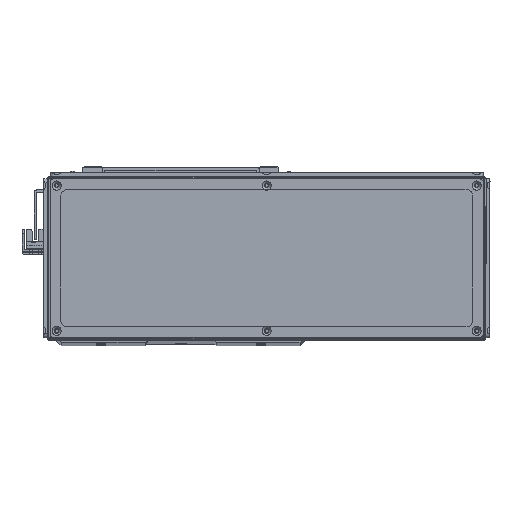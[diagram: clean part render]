
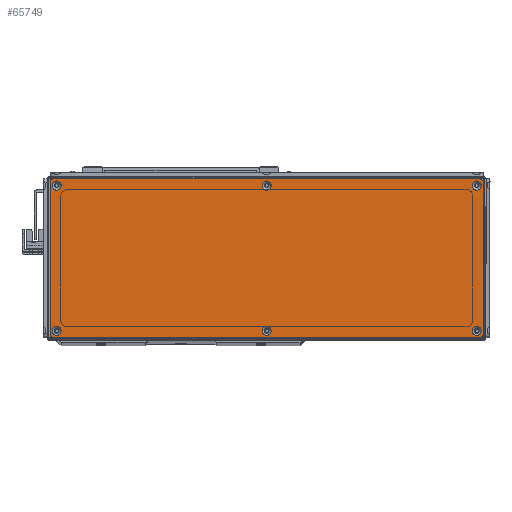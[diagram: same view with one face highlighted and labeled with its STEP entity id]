
A CAD part, top view. The second image highlights one B-rep face of the part: STEP entity #65749.
In plain terms, the highlighted planar face has unit normal (0, 0, 1) as drawn and (0, -1, 0) by its records, which use the part's own axes.
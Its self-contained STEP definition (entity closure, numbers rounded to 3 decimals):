
#1160=FACE_BOUND('',#9768,.T.);
#1161=FACE_BOUND('',#9769,.T.);
#1162=FACE_BOUND('',#9770,.T.);
#1163=FACE_BOUND('',#9771,.T.);
#1164=FACE_BOUND('',#9772,.T.);
#1165=FACE_BOUND('',#9773,.T.);
#1980=PLANE('',#70830);
#5914=FACE_OUTER_BOUND('',#9767,.T.);
#9767=EDGE_LOOP('',(#51489,#51490,#51491,#51492,#51493,#51494,#51495,#51496));
#9768=EDGE_LOOP('',(#51497));
#9769=EDGE_LOOP('',(#51498));
#9770=EDGE_LOOP('',(#51499));
#9771=EDGE_LOOP('',(#51500));
#9772=EDGE_LOOP('',(#51501));
#9773=EDGE_LOOP('',(#51502));
#14219=LINE('',#98699,#22055);
#14220=LINE('',#98703,#22056);
#14221=LINE('',#98707,#22057);
#14222=LINE('',#98710,#22058);
#22055=VECTOR('',#80173,10.);
#22056=VECTOR('',#80176,10.);
#22057=VECTOR('',#80179,10.);
#22058=VECTOR('',#80182,10.);
#29001=CIRCLE('',#70798,3.45);
#29004=CIRCLE('',#70803,3.45);
#29007=CIRCLE('',#70808,3.45);
#29010=CIRCLE('',#70813,3.45);
#29013=CIRCLE('',#70818,3.45);
#29016=CIRCLE('',#70823,3.45);
#29019=CIRCLE('',#70828,3.);
#29021=CIRCLE('',#70831,3.);
#29022=CIRCLE('',#70832,3.);
#29023=CIRCLE('',#70833,3.);
#31493=VERTEX_POINT('',#98629);
#31496=VERTEX_POINT('',#98639);
#31499=VERTEX_POINT('',#98649);
#31502=VERTEX_POINT('',#98659);
#31505=VERTEX_POINT('',#98669);
#31508=VERTEX_POINT('',#98679);
#31511=VERTEX_POINT('',#98689);
#31512=VERTEX_POINT('',#98690);
#31515=VERTEX_POINT('',#98698);
#31516=VERTEX_POINT('',#98700);
#31517=VERTEX_POINT('',#98702);
#31518=VERTEX_POINT('',#98704);
#31519=VERTEX_POINT('',#98706);
#31520=VERTEX_POINT('',#98708);
#38848=EDGE_CURVE('',#31493,#31493,#29001,.T.);
#38853=EDGE_CURVE('',#31496,#31496,#29004,.T.);
#38858=EDGE_CURVE('',#31499,#31499,#29007,.T.);
#38863=EDGE_CURVE('',#31502,#31502,#29010,.T.);
#38868=EDGE_CURVE('',#31505,#31505,#29013,.T.);
#38873=EDGE_CURVE('',#31508,#31508,#29016,.T.);
#38878=EDGE_CURVE('',#31511,#31512,#29019,.T.);
#38882=EDGE_CURVE('',#31511,#31515,#14219,.T.);
#38883=EDGE_CURVE('',#31516,#31515,#29021,.T.);
#38884=EDGE_CURVE('',#31516,#31517,#14220,.T.);
#38885=EDGE_CURVE('',#31518,#31517,#29022,.T.);
#38886=EDGE_CURVE('',#31518,#31519,#14221,.T.);
#38887=EDGE_CURVE('',#31520,#31519,#29023,.T.);
#38888=EDGE_CURVE('',#31520,#31512,#14222,.T.);
#51489=ORIENTED_EDGE('',*,*,#38878,.F.);
#51490=ORIENTED_EDGE('',*,*,#38882,.T.);
#51491=ORIENTED_EDGE('',*,*,#38883,.F.);
#51492=ORIENTED_EDGE('',*,*,#38884,.T.);
#51493=ORIENTED_EDGE('',*,*,#38885,.F.);
#51494=ORIENTED_EDGE('',*,*,#38886,.T.);
#51495=ORIENTED_EDGE('',*,*,#38887,.F.);
#51496=ORIENTED_EDGE('',*,*,#38888,.T.);
#51497=ORIENTED_EDGE('',*,*,#38848,.T.);
#51498=ORIENTED_EDGE('',*,*,#38853,.T.);
#51499=ORIENTED_EDGE('',*,*,#38858,.T.);
#51500=ORIENTED_EDGE('',*,*,#38863,.T.);
#51501=ORIENTED_EDGE('',*,*,#38868,.T.);
#51502=ORIENTED_EDGE('',*,*,#38873,.T.);
#65749=ADVANCED_FACE('',(#5914,#1160,#1161,#1162,#1163,#1164,#1165),#1980,
 .T.);
#70798=AXIS2_PLACEMENT_3D('',#98630,#80093,#80094);
#70803=AXIS2_PLACEMENT_3D('',#98640,#80105,#80106);
#70808=AXIS2_PLACEMENT_3D('',#98650,#80117,#80118);
#70813=AXIS2_PLACEMENT_3D('',#98660,#80129,#80130);
#70818=AXIS2_PLACEMENT_3D('',#98670,#80141,#80142);
#70823=AXIS2_PLACEMENT_3D('',#98680,#80153,#80154);
#70828=AXIS2_PLACEMENT_3D('',#98691,#80165,#80166);
#70830=AXIS2_PLACEMENT_3D('',#98697,#80171,#80172);
#70831=AXIS2_PLACEMENT_3D('',#98701,#80174,#80175);
#70832=AXIS2_PLACEMENT_3D('',#98705,#80177,#80178);
#70833=AXIS2_PLACEMENT_3D('',#98709,#80180,#80181);
#80093=DIRECTION('center_axis',(0.,1.,0.));
#80094=DIRECTION('ref_axis',(1.,0.,0.));
#80105=DIRECTION('center_axis',(0.,1.,0.));
#80106=DIRECTION('ref_axis',(1.,0.,0.));
#80117=DIRECTION('center_axis',(0.,1.,0.));
#80118=DIRECTION('ref_axis',(1.,0.,0.));
#80129=DIRECTION('center_axis',(0.,1.,0.));
#80130=DIRECTION('ref_axis',(1.,0.,0.));
#80141=DIRECTION('center_axis',(0.,1.,0.));
#80142=DIRECTION('ref_axis',(1.,0.,0.));
#80153=DIRECTION('center_axis',(0.,1.,0.));
#80154=DIRECTION('ref_axis',(1.,0.,0.));
#80165=DIRECTION('center_axis',(0.,1.,0.));
#80166=DIRECTION('ref_axis',(-0.707,0.,0.707));
#80171=DIRECTION('center_axis',(0.,-1.,0.));
#80172=DIRECTION('ref_axis',(0.,0.,-1.));
#80173=DIRECTION('',(0.,0.,-1.));
#80174=DIRECTION('center_axis',(0.,1.,0.));
#80175=DIRECTION('ref_axis',(-0.707,0.,-0.707));
#80176=DIRECTION('',(1.,0.,0.));
#80177=DIRECTION('center_axis',(0.,1.,0.));
#80178=DIRECTION('ref_axis',(0.707,0.,-0.707));
#80179=DIRECTION('',(0.,0.,1.));
#80180=DIRECTION('center_axis',(0.,1.,0.));
#80181=DIRECTION('ref_axis',(0.707,0.,0.707));
#80182=DIRECTION('',(-1.,0.,0.));
#98629=CARTESIAN_POINT('',(154.05,-1.5,54.5));
#98630=CARTESIAN_POINT('Origin',(157.5,-1.5,54.5));
#98639=CARTESIAN_POINT('',(-3.45,-1.5,54.5));
#98640=CARTESIAN_POINT('Origin',(0.,-1.5,54.5));
#98649=CARTESIAN_POINT('',(-160.95,-1.5,54.5));
#98650=CARTESIAN_POINT('Origin',(-157.5,-1.5,54.5));
#98659=CARTESIAN_POINT('',(-160.95,-1.5,-54.5));
#98660=CARTESIAN_POINT('Origin',(-157.5,-1.5,-54.5));
#98669=CARTESIAN_POINT('',(-3.45,-1.5,-54.5));
#98670=CARTESIAN_POINT('Origin',(0.,-1.5,-54.5));
#98679=CARTESIAN_POINT('',(154.05,-1.5,-54.5));
#98680=CARTESIAN_POINT('Origin',(157.5,-1.5,-54.5));
#98689=CARTESIAN_POINT('',(-162.5,-1.5,56.5));
#98690=CARTESIAN_POINT('',(-159.5,-1.5,59.5));
#98691=CARTESIAN_POINT('Origin',(-159.5,-1.5,56.5));
#98697=CARTESIAN_POINT('Origin',(0.,-1.5,0.));
#98698=CARTESIAN_POINT('',(-162.5,-1.5,-56.5));
#98699=CARTESIAN_POINT('',(-162.5,-1.5,59.5));
#98700=CARTESIAN_POINT('',(-159.5,-1.5,-59.5));
#98701=CARTESIAN_POINT('Origin',(-159.5,-1.5,-56.5));
#98702=CARTESIAN_POINT('',(159.5,-1.5,-59.5));
#98703=CARTESIAN_POINT('',(-162.5,-1.5,-59.5));
#98704=CARTESIAN_POINT('',(162.5,-1.5,-56.5));
#98705=CARTESIAN_POINT('Origin',(159.5,-1.5,-56.5));
#98706=CARTESIAN_POINT('',(162.5,-1.5,56.5));
#98707=CARTESIAN_POINT('',(162.5,-1.5,-59.5));
#98708=CARTESIAN_POINT('',(159.5,-1.5,59.5));
#98709=CARTESIAN_POINT('Origin',(159.5,-1.5,56.5));
#98710=CARTESIAN_POINT('',(162.5,-1.5,59.5));
